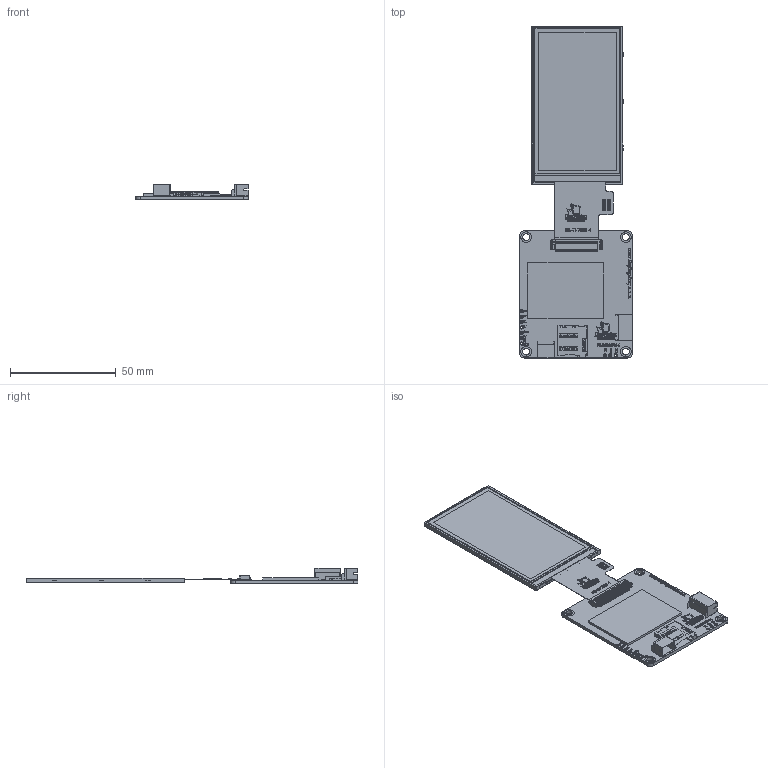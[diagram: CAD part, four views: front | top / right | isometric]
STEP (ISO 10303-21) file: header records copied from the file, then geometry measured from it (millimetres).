
FILE_DESCRIPTION (( 'STEP AP214' ), '1' );
FILE_NAME ('ER-TFT030-1-5982.STEP', '2024-07-16T10:46:34', ( '微软用户' ), ( '微软中国' ), 'SwSTEP 2.0', 'SolidWorks 2023', '' );
FILE_SCHEMA (( 'AUTOMOTIVE_DESIGN' ));
Length unit declared in the file: millimetre
Products named in the file (3): ER-TFT030-1; ER-PCBA5982-1; ER-TFT030-1-5982
Assembly tree (2 placements, depth 2):
  ER-TFT030-1-5982
    ER-PCBA5982-1
    ER-TFT030-1
Bounding box: 53 x 156.61 x 7.2 mm (x, y, z)
Volume: 13458.6 mm3; surface area: 19521.7 mm2
Topology: 157 solids, 157 shells, 5126 faces, 14838 edges, 9767 vertices
Faces by surface type: plane 3580, bspline 1072, cylinder 474
Entity records: 244546 total; most frequent: CARTESIAN_POINT 77976, ORIENTED_EDGE 29676, DIRECTION 21608, EDGE_CURVE 14838, LINE 11682, VECTOR 11682, VERTEX_POINT 9767, EDGE_LOOP 5435
